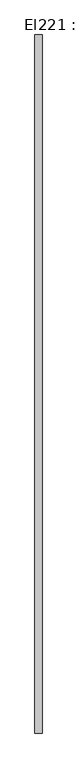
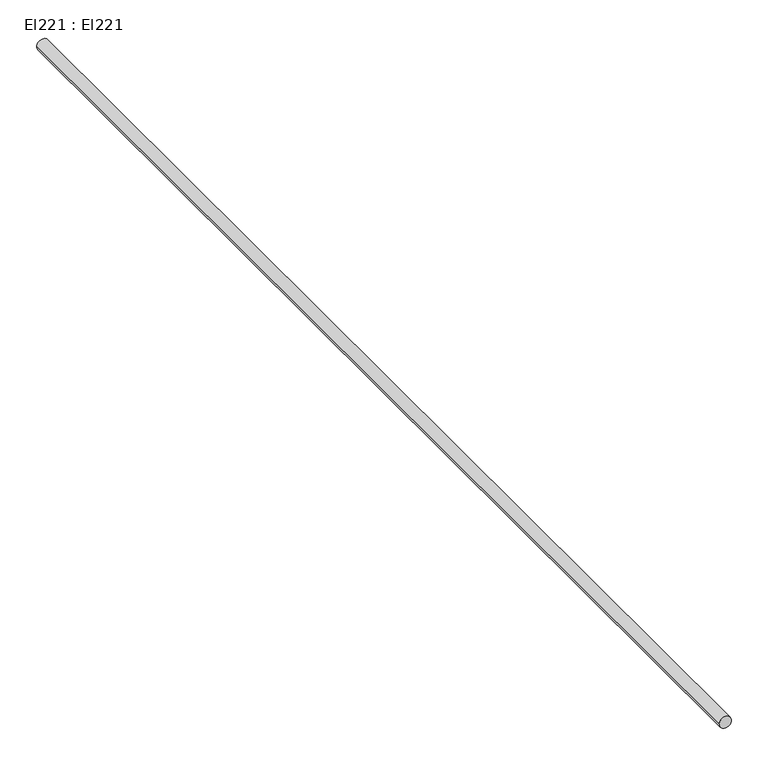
"""IFC4 building model written with IfcOpenShell, lengths in millimetres: cable carrier segment geometry, El221 : El221."""

from ifc_helpers import new_model, si_unit, point, frame, frame_2d, origin, place, context, project, spatial, circle_curve, trimmed, segment, composite_curve, outline, extrude, source, transform, mapped, element, save


def el221_el221_4c1e7a8e(model_context):
    return source(origin(), model_context, "Body", "SweptSolid", [
        extrude(outline(composite_curve([segment(trimmed(circle_curve(frame_2d((300.0, 6550.0)), 9.5), [point((300.0, 6540.5))], [point((300.0, 6559.5))], False, "CARTESIAN"), True, "CONTINUOUS"), segment(trimmed(circle_curve(frame_2d((300.0, 6550.0)), 9.5), [point((300.0, 6559.5))], [point((300.0, 6540.5))], False, "CARTESIAN"), True, "CONTINUOUS")], self_intersect=False)), frame((0.0, 24191.463, 0.0), z_axis=(0.0, 1.0, 0.0), x_axis=(0.0, 0.0, 1.0)), (0.0, 0.0, 1.0), 1853.07),
    ])


if __name__ == "__main__":
    model = new_model("IFC4")
    model_context = context("Model", 3, world=origin())
    ifc_project = project(units=[si_unit("LENGTHUNIT", "METRE", prefix="MILLI")], contexts=[model_context])
    site = spatial("IfcSite", under=ifc_project)
    building = spatial("IfcBuilding", under=site)
    placement = place(None, origin())
    el221_el221_shape = el221_el221_4c1e7a8e(model_context)
    element("IfcCableCarrierSegment", 1, ObjectType="El221 : El221", at=placement, inside=building, context=model_context, shape_type="MappedRepresentation", body=[
        mapped(el221_el221_shape, transform((0.0, 0.0, 0.0), x_axis=(1.0, 0.0, 0.0), y_axis=(0.0, 1.0, 0.0), z_axis=(0.0, 0.0, 1.0))),
    ])
    save(model, "model.ifc")
